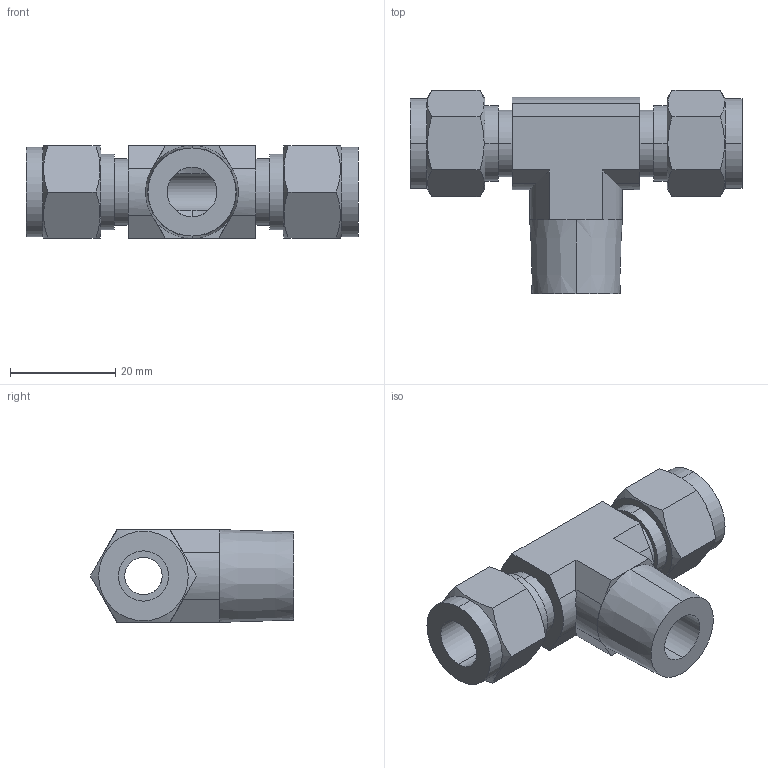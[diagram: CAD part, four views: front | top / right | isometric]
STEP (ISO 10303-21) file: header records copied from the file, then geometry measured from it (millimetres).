
FILE_DESCRIPTION (( 'STEP AP203' ), '1' );
FILE_NAME ('DTN 06-06 SS.STEP', '2009-09-08T10:09:34', ( 'Your User Name' ), ( 'Your Company Name' ), 'SwSTEP 2.0', 'SolidWorks 2008', '' );
FILE_SCHEMA (( 'CONFIG_CONTROL_DESIGN' ));
Length unit declared in the file: millimetre
Products named in the file (1): DTN 06-06 SS
Bounding box: 63 x 38.58 x 17.6 mm (x, y, z)
Volume: 14574.9 mm3; surface area: 7944.7 mm2
Topology: 1 solids, 1 shells, 82 faces, 198 edges, 125 vertices
Faces by surface type: plane 43, cylinder 26, cone 13
Entity records: 2742 total; most frequent: CARTESIAN_POINT 765, ORIENTED_EDGE 396, DIRECTION 389, EDGE_CURVE 198, AXIS2_PLACEMENT_3D 147, VERTEX_POINT 125, VECTOR 95, LINE 95
